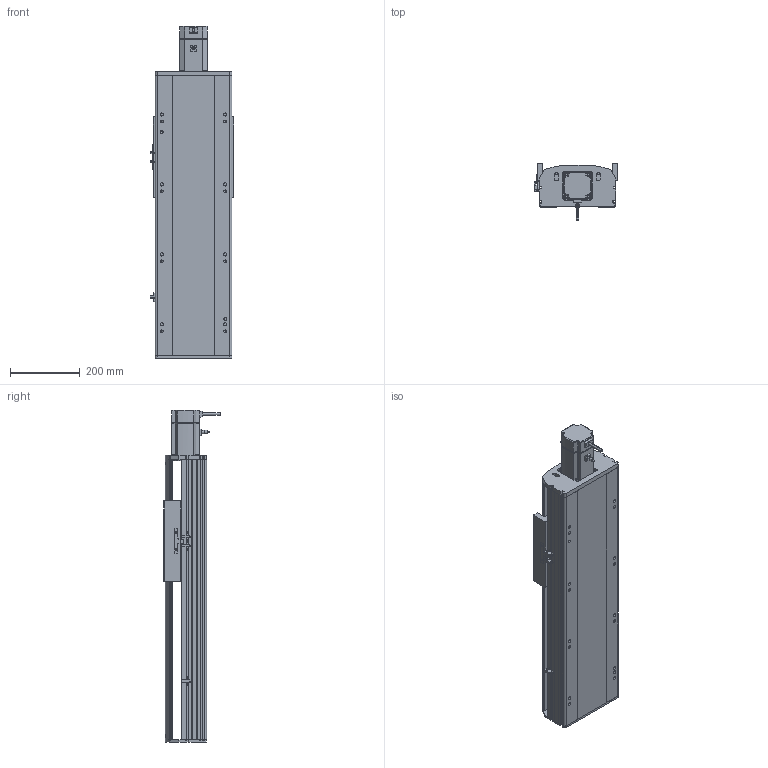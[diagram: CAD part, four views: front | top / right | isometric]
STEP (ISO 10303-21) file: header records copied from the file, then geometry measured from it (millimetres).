
FILE_DESCRIPTION (( 'STEP AP214' ), '1' );
FILE_NAME ('RTH22-XX-400-E-M75-C4.STEP', '2025-10-24T10:42:52', ( 'Microsoft' ), ( 'Microsoft' ), 'SwSTEP 2.0', 'SolidWorks 2018', '' );
FILE_SCHEMA (( 'AUTOMOTIVE_DESIGN' ));
Length unit declared in the file: millimetre
Products named in the file (9): N_RTH22-E-007奻裔^RTH22-XX-XX-E-M75-C4; N_RTH22-E-011菁釱^RTH22-XX-XX-E-M75-C4; N_RTH22-GY-013外置感应片^RTH22-XX-XX-E-M75-C4; N_OMRON EE-SX672 传感器^RTH22-XX-XX-E-M75-C4; N_750W萇儂^RTH22-XX-XX-E-M75-C4; N_RTH22-E-004-SFS25賑釱^RTH22-XX-XX-E-M75-C4; RTH22-XX-400-E-M75-C4; N_RTH22-E-008萇儂啣^RTH22-XX-XX-E-M75-C4; N_RTH22-GY-001耜裔^RTH22-XX-XX-E-M75-C4
Assembly tree (10 placements, depth 2):
  RTH22-XX-400-E-M75-C4
    N_RTH22-E-011菁釱^RTH22-XX-XX-E-M75-C4
    N_RTH22-GY-001耜裔^RTH22-XX-XX-E-M75-C4
    N_RTH22-E-008萇儂啣^RTH22-XX-XX-E-M75-C4
    N_RTH22-E-007奻裔^RTH22-XX-XX-E-M75-C4
    N_RTH22-GY-013外置感应片^RTH22-XX-XX-E-M75-C4
    N_RTH22-E-004-SFS25賑釱^RTH22-XX-XX-E-M75-C4
    N_750W萇儂^RTH22-XX-XX-E-M75-C4
    N_OMRON EE-SX672 传感器^RTH22-XX-XX-E-M75-C4  x3
Bounding box: 238.5 x 160.7 x 949 mm (x, y, z)
Volume: 12413585.3 mm3; surface area: 1315464.3 mm2
Topology: 10 solids, 10 shells, 1487 faces, 4074 edges, 2639 vertices
Faces by surface type: plane 750, cylinder 412, bspline 279, cone 46
Entity records: 36517 total; most frequent: CARTESIAN_POINT 11561, ORIENTED_EDGE 5148, DIRECTION 4780, EDGE_CURVE 2574, VERTEX_POINT 1675, VECTOR 1608, LINE 1608, AXIS2_PLACEMENT_3D 1586
